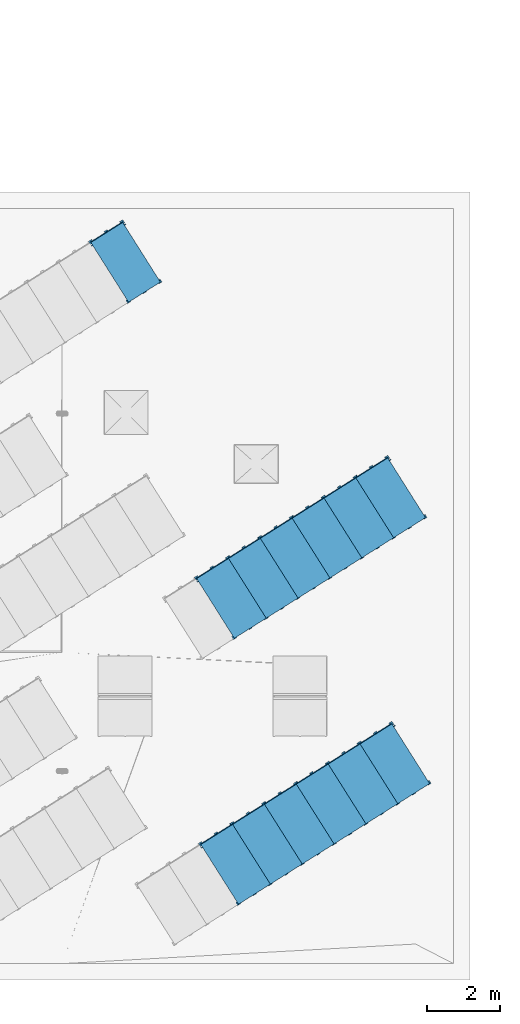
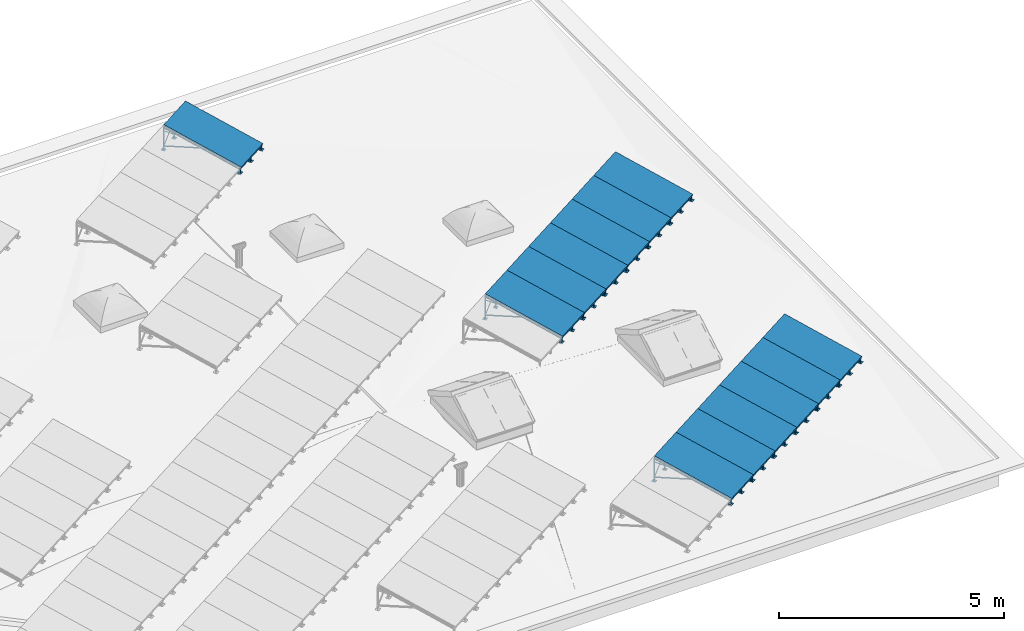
# One storey, part 3 of 9: 13 discrete accessories.
"""IFC2X3 building model written with IfcOpenShell, lengths in millimetres."""

from ifc_helpers import new_model, entity, si_unit, converted_unit, derived_unit, money_unit, direction, frame, origin_with_axes, place, context, subcontext, project, spatial, open_shell, faceted_brep, surface_model, source, transform, mapped, type_object, element, save


model = new_model("IFC2X3")

# Units and contexts
model_context = context("Model", 3, precision=0.01, world=origin_with_axes(), true_north=direction((0.0, 1.0)))
body_context = subcontext(model_context, "Body", "Model", "MODEL_VIEW")
ifc_project = project(units=[si_unit("LENGTHUNIT", "METRE", prefix="MILLI"), si_unit("AREAUNIT", "SQUARE_METRE"), si_unit("VOLUMEUNIT", "CUBIC_METRE"), converted_unit("PLANEANGLEUNIT", "DEGREE", entity("IfcPlaneAngleMeasure", 0.0174532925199), si_unit("PLANEANGLEUNIT", "RADIAN"), dimensions=[0, 0, 0, 0, 0, 0, 0]), si_unit("SOLIDANGLEUNIT", "STERADIAN"), money_unit("EUR"), converted_unit("TIMEUNIT", "Year", entity("IfcTimeMeasure", 31556926.0), si_unit("TIMEUNIT", "SECOND"), dimensions=[0, 0, 1, 0, 0, 0, 0]), si_unit("MASSUNIT", "GRAM", prefix="KILO"), si_unit("THERMODYNAMICTEMPERATUREUNIT", "DEGREE_CELSIUS"), si_unit("LUMINOUSINTENSITYUNIT", "LUMEN"), si_unit("ENERGYUNIT", "JOULE", prefix="MEGA"), derived_unit("THERMALCONDUCTANCEUNIT", [(si_unit("POWERUNIT", "WATT"), 1), (si_unit("LENGTHUNIT", "METRE"), -1), (si_unit("THERMODYNAMICTEMPERATUREUNIT", "KELVIN"), -1)]), derived_unit("SPECIFICHEATCAPACITYUNIT", [(si_unit("ENERGYUNIT", "JOULE"), 1), (si_unit("MASSUNIT", "GRAM", prefix="KILO"), -1), (si_unit("THERMODYNAMICTEMPERATUREUNIT", "KELVIN"), -1)]), derived_unit("MASSDENSITYUNIT", [(si_unit("MASSUNIT", "GRAM", prefix="KILO"), 1), (si_unit("VOLUMEUNIT", "CUBIC_METRE"), -1)])], contexts=[model_context])

# Site, building, storey
site_placement = place(None, origin_with_axes())
site = spatial("IfcSite", under=ifc_project, at=site_placement, Name="KIRDE 14, ELVA", CompositionType="ELEMENT")
building_placement = place(site_placement, origin_with_axes())
building = spatial("IfcBuilding", under=site, at=building_placement, Name="PPA ja Päästeameti ühishoone", CompositionType="ELEMENT")
storey_placement = place(building_placement, frame((0.0, 0.0, 7700.0), z_axis=(0.0, 0.0, 1.0), x_axis=(1.0, 0.0, 0.0)))
storey = spatial("IfcBuildingStorey", under=building, at=storey_placement, Name="Katusekorrus", CompositionType="ELEMENT", Elevation=7700.0)

# Discrete accessories
discrete_accessory_type = type_object("IfcDiscreteAccessoryType", Name="Solar Collector Flat Plate 24")
shared_shape = source(origin_with_axes(), body_context, "Body", "SurfaceModel", [
    surface_model("IfcShellBasedSurfaceModel", [(0.0, 1835.04380685, 600.253058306), (50.0, 1835.04380685, 600.253058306), (50.0, 1825.4978653, 604.20711676), (0.0, 1825.4978653, 604.20711676), (0.0, 1844.58974839, 604.20711676), (50.0, 1844.58974839, 604.20711676), (50.0, 1821.54380685, 613.753058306), (0.0, 1821.54380685, 613.753058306), (0.0, 1848.54380685, 613.753058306), (50.0, 1848.54380685, 613.753058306), (50.0, 1825.4978653, 623.298999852), (0.0, 1825.4978653, 623.298999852), (0.0, 1844.58974839, 623.298999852), (50.0, 1844.58974839, 623.298999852), (50.0, 1835.04380685, 627.253058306), (0.0, 1835.04380685, 627.253058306)], [open_shell([[[0, 1, 2, 3]], [[4, 5, 1, 0]], [[3, 2, 6, 7]], [[8, 9, 5, 4]], [[7, 6, 10, 11]], [[12, 13, 9, 8]], [[11, 10, 14, 15]], [[15, 14, 13, 12]]])]),
    surface_model("IfcShellBasedSurfaceModel", [(-1035.0, 1835.04380685, 627.253058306), (-1085.0, 1835.04380685, 627.253058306), (-1085.0, 1825.4978653, 623.298999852), (-1035.0, 1825.4978653, 623.298999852), (-1035.0, 1844.58974839, 623.298999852), (-1085.0, 1844.58974839, 623.298999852), (-1085.0, 1821.54380685, 613.753058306), (-1035.0, 1821.54380685, 613.753058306), (-1035.0, 1848.54380685, 613.753058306), (-1085.0, 1848.54380685, 613.753058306), (-1085.0, 1825.4978653, 604.20711676), (-1035.0, 1825.4978653, 604.20711676), (-1035.0, 1844.58974839, 604.20711676), (-1085.0, 1844.58974839, 604.20711676), (-1085.0, 1835.04380685, 600.253058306), (-1035.0, 1835.04380685, 600.253058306)], [open_shell([[[0, 1, 2, 3]], [[4, 5, 1, 0]], [[3, 2, 6, 7]], [[8, 9, 5, 4]], [[7, 6, 10, 11]], [[12, 13, 9, 8]], [[11, 10, 14, 15]], [[15, 14, 13, 12]]])]),
    faceted_brep([(0.0, -2.6969384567, 96.4852813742), (-1035.0, -2.6969384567, 96.4852813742), (-1035.0, 28.6956508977, 104.89690034), (0.0, 28.6956508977, 104.89690034), (0.0, -15.1202526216, 142.849721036), (-1035.0, -15.1202526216, 142.849721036), (-1035.0, 16.2723367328, 151.261340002), (0.0, 16.2723367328, 151.261340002)], [[[0, 1, 2, 3]], [[4, 5, 1, 0]], [[1, 5, 6, 2]], [[3, 2, 6, 7]], [[0, 3, 7, 4]], [[7, 6, 5, 4]]]),
    faceted_brep([(0.0, 1906.4554572, 608.041124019), (-1035.0, 1906.4554572, 608.041124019), (-1035.0, 1937.84804656, 616.452742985), (0.0, 1937.84804656, 616.452742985), (0.0, 1894.03214304, 654.405563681), (-1035.0, 1894.03214304, 654.405563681), (-1035.0, 1925.42473239, 662.817182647), (0.0, 1925.42473239, 662.817182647)], [[[0, 1, 2, 3]], [[4, 5, 1, 0]], [[1, 5, 6, 2]], [[3, 2, 6, 7]], [[0, 3, 7, 4]], [[7, 6, 5, 4]]]),
    faceted_brep([(-1002.5, 1925.42473239, 662.817182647), (-32.5, 1925.42473239, 662.817182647), (0.0, 1925.42473239, 662.817182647), (0.0, -15.1202526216, 142.849721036), (-1035.0, -15.1202526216, 142.849721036), (-1035.0, 1925.42473239, 662.817182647), (-1002.5, 1894.03214304, 654.405563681), (-1002.5, 16.2723367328, 151.261340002), (-32.5, 16.2723367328, 151.261340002), (-32.5, 1894.03214304, 654.405563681), (-1035.0, 1918.69543722, 687.931254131), (0.0, 1918.69543722, 687.931254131), (0.0, -21.8495477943, 167.96379252), (-1035.0, -21.8495477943, 167.96379252), (-1002.5, 1906.4554572, 608.041124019), (-1002.5, 28.6956508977, 104.89690034), (-32.5, 28.6956508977, 104.89690034), (-32.5, 1906.4554572, 608.041124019), (-70.0, 45.7652600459, 186.081125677), (-965.0, 45.7652600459, 186.081125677), (-965.0, 1851.08062938, 669.813920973), (-70.0, 1851.08062938, 669.813920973), (-70.0, 58.1885742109, 139.716686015), (-965.0, 58.1885742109, 139.716686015), (-965.0, 1863.50394355, 623.449481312), (-70.0, 1863.50394355, 623.449481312)], [[[0, 1, 2, 3, 4, 5], [6, 7, 8, 9]], [[0, 5, 10, 11, 2, 1]], [[11, 12, 3, 2]], [[13, 4, 3, 12]], [[10, 5, 4, 13]], [[14, 15, 7, 6]], [[15, 16, 8, 7]], [[9, 8, 16, 17]], [[6, 9, 17, 14]], [[13, 12, 11, 10], [18, 19, 20, 21]], [[17, 16, 15, 14]], [[18, 22, 23, 19]], [[19, 23, 24, 20]], [[20, 24, 25, 21]], [[21, 25, 22, 18]], [[24, 23, 22, 25]]]),
    faceted_brep([(-70.0, 47.0593552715, 181.251496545), (-70.0, 45.7652600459, 186.081125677), (-965.0, 45.7652600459, 186.081125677), (-965.0, 47.0593552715, 181.251496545), (-70.0, 1852.37472461, 664.984291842), (-70.0, 1851.08062938, 669.813920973), (-965.0, 1851.08062938, 669.813920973), (-965.0, 1852.37472461, 664.984291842)], [[[0, 1, 2, 3]], [[4, 5, 1, 0]], [[1, 5, 6, 2]], [[3, 2, 6, 7]], [[0, 3, 7, 4]], [[7, 6, 5, 4]]]),
    faceted_brep([(-32.5, 1823.3524639, 620.503058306), (-32.5, 1831.54974974, 626.793056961), (-32.5, 1841.79380685, 625.444401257), (-32.5, 1848.0838055, 617.247115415), (-32.5, 1846.7351498, 607.003058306), (-32.5, 1838.53786396, 600.713059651), (-32.5, 1828.29380685, 602.061715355), (-32.5, 1822.00380819, 610.259001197), (0.0, 1823.3524639, 620.503058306), (0.0, 1831.54974974, 626.793056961), (0.0, 1841.79380685, 625.444401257), (0.0, 1848.0838055, 617.247115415), (0.0, 1846.7351498, 607.003058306), (0.0, 1838.53786396, 600.713059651), (0.0, 1828.29380685, 602.061715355), (0.0, 1822.00380819, 610.259001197)], [[[0, 1, 2, 3, 4, 5, 6, 7]], [[0, 8, 9, 1]], [[1, 9, 10, 2]], [[2, 10, 11, 3]], [[3, 11, 12, 4]], [[4, 12, 13, 5]], [[5, 13, 14, 6]], [[6, 14, 15, 7]], [[7, 15, 8, 0]], [[8, 15, 14, 13, 12, 11, 10, 9]]]),
    faceted_brep([(-1002.5, 1823.3524639, 620.503058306), (-1002.5, 1822.00380819, 610.259001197), (-1002.5, 1828.29380685, 602.061715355), (-1002.5, 1838.53786396, 600.713059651), (-1002.5, 1846.7351498, 607.003058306), (-1002.5, 1848.0838055, 617.247115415), (-1002.5, 1841.79380685, 625.444401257), (-1002.5, 1831.54974974, 626.793056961), (-1035.0, 1823.3524639, 620.503058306), (-1035.0, 1822.00380819, 610.259001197), (-1035.0, 1828.29380685, 602.061715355), (-1035.0, 1838.53786396, 600.713059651), (-1035.0, 1846.7351498, 607.003058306), (-1035.0, 1848.0838055, 617.247115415), (-1035.0, 1841.79380685, 625.444401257), (-1035.0, 1831.54974974, 626.793056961)], [[[0, 1, 2, 3, 4, 5, 6, 7]], [[1, 0, 8, 9]], [[2, 1, 9, 10]], [[3, 2, 10, 11]], [[4, 3, 11, 12]], [[5, 4, 12, 13]], [[6, 5, 13, 14]], [[7, 6, 14, 15]], [[0, 7, 15, 8]], [[8, 15, 14, 13, 12, 11, 10, 9]]]),
    faceted_brep([(-70.0, 58.7062123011, 137.784834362), (-70.0, 54.0474694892, 155.171499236), (-965.0, 54.0474694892, 155.171499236), (-965.0, 58.7062123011, 137.784834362), (-70.0, 1864.02158164, 621.517629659), (-70.0, 1859.36283882, 638.904294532), (-965.0, 1859.36283882, 638.904294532), (-140.0, 121.662277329, 173.288832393), (-895.0, 121.662277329, 173.288832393), (-895.0, 1791.74803098, 620.786961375), (-140.0, 1791.74803098, 620.786961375), (-965.0, 1864.02158164, 621.517629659), (-140.0, 126.321020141, 155.90216752), (-140.0, 1796.4067738, 603.400296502), (-895.0, 1796.4067738, 603.400296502), (-895.0, 126.321020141, 155.90216752)], [[[0, 1, 2, 3]], [[4, 5, 1, 0]], [[1, 5, 6, 2], [7, 8, 9, 10]], [[3, 2, 6, 11]], [[0, 3, 11, 4], [12, 13, 14, 15]], [[11, 6, 5, 4]], [[15, 8, 7, 12]], [[14, 9, 8, 15]], [[13, 10, 9, 14]], [[12, 7, 10, 13]]]),
    surface_model("IfcShellBasedSurfaceModel", [(-140.0, 125.026924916, 160.731796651), (-895.0, 125.026924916, 160.731796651), (-895.0, 1795.11267857, 608.229925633), (-140.0, 1795.11267857, 608.229925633)], [open_shell([[[0, 1, 2, 3]]])]),
    faceted_brep([(0.0, 1944.05970364, 593.270523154), (0.0, 3.51471862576, 73.3030615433), (-24.0, 3.51471862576, 73.3030615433), (-24.0, 1944.05970364, 593.270523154), (0.0, 1937.84804656, 616.452742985), (0.0, -2.6969384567, 96.4852813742), (-24.0, -2.6969384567, 96.4852813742), (-24.0, 1937.84804656, 616.452742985)], [[[0, 1, 2, 3]], [[4, 5, 1, 0]], [[1, 5, 6, 2]], [[3, 2, 6, 7]], [[0, 3, 7, 4]], [[7, 6, 5, 4]]]),
    faceted_brep([(-505.5, 1944.05970364, 593.270523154), (-505.5, 3.51471862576, 73.3030615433), (-529.5, 3.51471862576, 73.3030615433), (-529.5, 1944.05970364, 593.270523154), (-505.5, 1937.84804656, 616.452742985), (-505.5, -2.6969384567, 96.4852813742), (-529.5, -2.6969384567, 96.4852813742), (-529.5, 1937.84804656, 616.452742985)], [[[0, 1, 2, 3]], [[4, 5, 1, 0]], [[1, 5, 6, 2]], [[3, 2, 6, 7]], [[0, 3, 7, 4]], [[7, 6, 5, 4]]]),
    faceted_brep([(-1011.0, 1944.05970364, 593.270523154), (-1011.0, 3.51471862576, 73.3030615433), (-1035.0, 3.51471862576, 73.3030615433), (-1035.0, 1944.05970364, 593.270523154), (-1011.0, 1937.84804656, 616.452742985), (-1011.0, -2.6969384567, 96.4852813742), (-1035.0, -2.6969384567, 96.4852813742), (-1035.0, 1937.84804656, 616.452742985)], [[[0, 1, 2, 3]], [[4, 5, 1, 0]], [[1, 5, 6, 2]], [[3, 2, 6, 7]], [[0, 3, 7, 4]], [[7, 6, 5, 4]]]),
    faceted_brep([(0.0, 24.0, 52.0), (0.0, 24.0, 88.0), (5.0, 24.0, 88.0), (5.0, 24.0, 5.0), (-29.0, 24.0, 5.0), (-29.0, 24.0, 88.0), (-24.0, 24.0, 88.0), (-24.0, 24.0, 52.0), (0.0, 0.0, 52.0), (0.0, 0.0, 88.0), (0.0, 3.51471862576, 96.4852813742), (0.0, 12.0, 100.0), (0.0, 20.4852813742, 96.4852813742), (5.0, 20.4852813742, 96.4852813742), (5.0, 12.0, 100.0), (5.0, 3.51471862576, 96.4852813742), (5.0, 0.0, 88.0), (5.0, 0.0, 5.0), (-29.0, 0.0, 5.0), (-29.0, 12.0, 100.0), (-29.0, 20.4852813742, 96.4852813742), (-29.0, 0.0, 88.0), (-29.0, 3.51471862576, 96.4852813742), (-24.0, 20.4852813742, 96.4852813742), (-24.0, 12.0, 100.0), (-24.0, 3.51471862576, 96.4852813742), (-24.0, 0.0, 88.0), (-24.0, 0.0, 52.0)], [[[0, 1, 2, 3, 4, 5, 6, 7]], [[0, 8, 9, 10, 11, 12, 1]], [[12, 13, 2, 1]], [[13, 14, 15, 16, 17, 3, 2]], [[3, 17, 18, 4]], [[19, 20, 5, 4, 18, 21, 22]], [[6, 5, 20, 23]], [[23, 24, 25, 26, 27, 7, 6]], [[7, 27, 8, 0]], [[8, 27, 26, 21, 18, 17, 16, 9]], [[9, 16, 15, 10]], [[10, 15, 14, 11]], [[11, 14, 13, 12]], [[23, 20, 19, 24]], [[25, 22, 21, 26]], [[24, 19, 22, 25]]]),
    faceted_brep([(38.0, -38.0, 0.0), (38.0, -38.0, 5.0), (-62.0, -38.0, 5.0), (-62.0, -38.0, 0.0), (38.0, 62.0, 0.0), (38.0, 62.0, 5.0), (-62.0, 62.0, 5.0), (-62.0, 62.0, 0.0)], [[[0, 1, 2, 3]], [[4, 5, 1, 0]], [[1, 5, 6, 2]], [[3, 2, 6, 7]], [[0, 3, 7, 4]], [[7, 6, 5, 4]]]),
    faceted_brep([(-505.5, 24.0, 52.0), (-505.5, 24.0, 88.0), (-500.5, 24.0, 88.0), (-500.5, 24.0, 5.0), (-534.5, 24.0, 5.0), (-534.5, 24.0, 88.0), (-529.5, 24.0, 88.0), (-529.5, 24.0, 52.0), (-505.5, 0.0, 52.0), (-505.5, 0.0, 88.0), (-505.5, 3.51471862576, 96.4852813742), (-505.5, 12.0, 100.0), (-505.5, 20.4852813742, 96.4852813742), (-500.5, 20.4852813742, 96.4852813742), (-500.5, 12.0, 100.0), (-500.5, 3.51471862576, 96.4852813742), (-500.5, 0.0, 88.0), (-500.5, 0.0, 5.0), (-534.5, 0.0, 5.0), (-534.5, 12.0, 100.0), (-534.5, 20.4852813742, 96.4852813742), (-534.5, 0.0, 88.0), (-534.5, 3.51471862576, 96.4852813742), (-529.5, 20.4852813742, 96.4852813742), (-529.5, 12.0, 100.0), (-529.5, 3.51471862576, 96.4852813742), (-529.5, 0.0, 88.0), (-529.5, 0.0, 52.0)], [[[0, 1, 2, 3, 4, 5, 6, 7]], [[0, 8, 9, 10, 11, 12, 1]], [[12, 13, 2, 1]], [[13, 14, 15, 16, 17, 3, 2]], [[3, 17, 18, 4]], [[19, 20, 5, 4, 18, 21, 22]], [[6, 5, 20, 23]], [[23, 24, 25, 26, 27, 7, 6]], [[7, 27, 8, 0]], [[8, 27, 26, 21, 18, 17, 16, 9]], [[9, 16, 15, 10]], [[10, 15, 14, 11]], [[11, 14, 13, 12]], [[23, 20, 19, 24]], [[25, 22, 21, 26]], [[24, 19, 22, 25]]]),
    faceted_brep([(-467.5, -38.0, 0.0), (-467.5, -38.0, 5.0), (-567.5, -38.0, 5.0), (-567.5, -38.0, 0.0), (-467.5, 62.0, 0.0), (-467.5, 62.0, 5.0), (-567.5, 62.0, 5.0), (-567.5, 62.0, 0.0)], [[[0, 1, 2, 3]], [[4, 5, 1, 0]], [[1, 5, 6, 2]], [[3, 2, 6, 7]], [[0, 3, 7, 4]], [[7, 6, 5, 4]]]),
    faceted_brep([(-1011.0, 24.0, 52.0), (-1011.0, 24.0, 88.0), (-1006.0, 24.0, 88.0), (-1006.0, 24.0, 5.0), (-1040.0, 24.0, 5.0), (-1040.0, 24.0, 88.0), (-1035.0, 24.0, 88.0), (-1035.0, 24.0, 52.0), (-1011.0, 0.0, 52.0), (-1011.0, 0.0, 88.0), (-1011.0, 3.51471862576, 96.4852813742), (-1011.0, 12.0, 100.0), (-1011.0, 20.4852813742, 96.4852813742), (-1006.0, 20.4852813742, 96.4852813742), (-1006.0, 12.0, 100.0), (-1006.0, 3.51471862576, 96.4852813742), (-1006.0, 0.0, 88.0), (-1006.0, 0.0, 5.0), (-1040.0, 0.0, 5.0), (-1040.0, 12.0, 100.0), (-1040.0, 20.4852813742, 96.4852813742), (-1040.0, 0.0, 88.0), (-1040.0, 3.51471862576, 96.4852813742), (-1035.0, 20.4852813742, 96.4852813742), (-1035.0, 12.0, 100.0), (-1035.0, 3.51471862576, 96.4852813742), (-1035.0, 0.0, 88.0), (-1035.0, 0.0, 52.0)], [[[0, 1, 2, 3, 4, 5, 6, 7]], [[0, 8, 9, 10, 11, 12, 1]], [[12, 13, 2, 1]], [[13, 14, 15, 16, 17, 3, 2]], [[3, 17, 18, 4]], [[19, 20, 5, 4, 18, 21, 22]], [[6, 5, 20, 23]], [[23, 24, 25, 26, 27, 7, 6]], [[7, 27, 8, 0]], [[8, 27, 26, 21, 18, 17, 16, 9]], [[9, 16, 15, 10]], [[10, 15, 14, 11]], [[11, 14, 13, 12]], [[23, 20, 19, 24]], [[25, 22, 21, 26]], [[24, 19, 22, 25]]]),
    faceted_brep([(-973.0, -38.0, 0.0), (-973.0, -38.0, 5.0), (-1073.0, -38.0, 5.0), (-1073.0, -38.0, 0.0), (-973.0, 62.0, 0.0), (-973.0, 62.0, 5.0), (-1073.0, 62.0, 5.0), (-1073.0, 62.0, 0.0)], [[[0, 1, 2, 3]], [[4, 5, 1, 0]], [[1, 5, 6, 2]], [[3, 2, 6, 7]], [[0, 3, 7, 4]], [[7, 6, 5, 4]]]),
    faceted_brep([(0.0, 1941.36276518, 565.755804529), (0.0, 1941.36276518, 601.755804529), (5.0, 1941.36276518, 601.755804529), (5.0, 1941.36276518, 5.0), (-29.0, 1941.36276518, 5.0), (-29.0, 1941.36276518, 601.755804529), (-24.0, 1941.36276518, 601.755804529), (-24.0, 1941.36276518, 565.755804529), (0.0, 1917.36276518, 565.755804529), (0.0, 1917.36276518, 601.755804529), (0.0, 1920.87748381, 610.241085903), (0.0, 1929.36276518, 613.755804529), (0.0, 1937.84804656, 610.241085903), (5.0, 1937.84804656, 610.241085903), (5.0, 1929.36276518, 613.755804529), (5.0, 1920.87748381, 610.241085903), (5.0, 1917.36276518, 601.755804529), (5.0, 1917.36276518, 5.0), (-29.0, 1917.36276518, 5.0), (-29.0, 1929.36276518, 613.755804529), (-29.0, 1937.84804656, 610.241085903), (-29.0, 1917.36276518, 601.755804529), (-29.0, 1920.87748381, 610.241085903), (-24.0, 1937.84804656, 610.241085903), (-24.0, 1929.36276518, 613.755804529), (-24.0, 1920.87748381, 610.241085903), (-24.0, 1917.36276518, 601.755804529), (-24.0, 1917.36276518, 565.755804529)], [[[0, 1, 2, 3, 4, 5, 6, 7]], [[0, 8, 9, 10, 11, 12, 1]], [[12, 13, 2, 1]], [[13, 14, 15, 16, 17, 3, 2]], [[3, 17, 18, 4]], [[19, 20, 5, 4, 18, 21, 22]], [[6, 5, 20, 23]], [[23, 24, 25, 26, 27, 7, 6]], [[7, 27, 8, 0]], [[8, 27, 26, 21, 18, 17, 16, 9]], [[9, 16, 15, 10]], [[10, 15, 14, 11]], [[11, 14, 13, 12]], [[23, 20, 19, 24]], [[25, 22, 21, 26]], [[24, 19, 22, 25]]]),
    faceted_brep([(38.0, 1879.36276518, 0.0), (38.0, 1879.36276518, 5.0), (-62.0, 1879.36276518, 5.0), (-62.0, 1879.36276518, 0.0), (38.0, 1979.36276518, 0.0), (38.0, 1979.36276518, 5.0), (-62.0, 1979.36276518, 5.0), (-62.0, 1979.36276518, 0.0)], [[[0, 1, 2, 3]], [[4, 5, 1, 0]], [[1, 5, 6, 2]], [[3, 2, 6, 7]], [[0, 3, 7, 4]], [[7, 6, 5, 4]]]),
    faceted_brep([(-505.5, 1941.36276518, 565.755804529), (-505.5, 1941.36276518, 601.755804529), (-500.5, 1941.36276518, 601.755804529), (-500.5, 1941.36276518, 5.0), (-534.5, 1941.36276518, 5.0), (-534.5, 1941.36276518, 601.755804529), (-529.5, 1941.36276518, 601.755804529), (-529.5, 1941.36276518, 565.755804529), (-505.5, 1917.36276518, 565.755804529), (-505.5, 1917.36276518, 601.755804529), (-505.5, 1920.87748381, 610.241085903), (-505.5, 1929.36276518, 613.755804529), (-505.5, 1937.84804656, 610.241085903), (-500.5, 1937.84804656, 610.241085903), (-500.5, 1929.36276518, 613.755804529), (-500.5, 1920.87748381, 610.241085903), (-500.5, 1917.36276518, 601.755804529), (-500.5, 1917.36276518, 5.0), (-534.5, 1917.36276518, 5.0), (-534.5, 1929.36276518, 613.755804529), (-534.5, 1937.84804656, 610.241085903), (-534.5, 1917.36276518, 601.755804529), (-534.5, 1920.87748381, 610.241085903), (-529.5, 1937.84804656, 610.241085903), (-529.5, 1929.36276518, 613.755804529), (-529.5, 1920.87748381, 610.241085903), (-529.5, 1917.36276518, 601.755804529), (-529.5, 1917.36276518, 565.755804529)], [[[0, 1, 2, 3, 4, 5, 6, 7]], [[0, 8, 9, 10, 11, 12, 1]], [[12, 13, 2, 1]], [[13, 14, 15, 16, 17, 3, 2]], [[3, 17, 18, 4]], [[19, 20, 5, 4, 18, 21, 22]], [[6, 5, 20, 23]], [[23, 24, 25, 26, 27, 7, 6]], [[7, 27, 8, 0]], [[8, 27, 26, 21, 18, 17, 16, 9]], [[9, 16, 15, 10]], [[10, 15, 14, 11]], [[11, 14, 13, 12]], [[23, 20, 19, 24]], [[25, 22, 21, 26]], [[24, 19, 22, 25]]]),
    faceted_brep([(-467.5, 1879.36276518, 0.0), (-467.5, 1879.36276518, 5.0), (-567.5, 1879.36276518, 5.0), (-567.5, 1879.36276518, 0.0), (-467.5, 1979.36276518, 0.0), (-467.5, 1979.36276518, 5.0), (-567.5, 1979.36276518, 5.0), (-567.5, 1979.36276518, 0.0)], [[[0, 1, 2, 3]], [[4, 5, 1, 0]], [[1, 5, 6, 2]], [[3, 2, 6, 7]], [[0, 3, 7, 4]], [[7, 6, 5, 4]]]),
    faceted_brep([(-1011.0, 1941.36276518, 565.755804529), (-1011.0, 1941.36276518, 601.755804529), (-1006.0, 1941.36276518, 601.755804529), (-1006.0, 1941.36276518, 5.0), (-1040.0, 1941.36276518, 5.0), (-1040.0, 1941.36276518, 601.755804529), (-1035.0, 1941.36276518, 601.755804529), (-1035.0, 1941.36276518, 565.755804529), (-1011.0, 1917.36276518, 565.755804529), (-1011.0, 1917.36276518, 601.755804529), (-1011.0, 1920.87748381, 610.241085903), (-1011.0, 1929.36276518, 613.755804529), (-1011.0, 1937.84804656, 610.241085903), (-1006.0, 1937.84804656, 610.241085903), (-1006.0, 1929.36276518, 613.755804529), (-1006.0, 1920.87748381, 610.241085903), (-1006.0, 1917.36276518, 601.755804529), (-1006.0, 1917.36276518, 5.0), (-1040.0, 1917.36276518, 5.0), (-1040.0, 1929.36276518, 613.755804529), (-1040.0, 1937.84804656, 610.241085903), (-1040.0, 1917.36276518, 601.755804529), (-1040.0, 1920.87748381, 610.241085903), (-1035.0, 1937.84804656, 610.241085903), (-1035.0, 1929.36276518, 613.755804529), (-1035.0, 1920.87748381, 610.241085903), (-1035.0, 1917.36276518, 601.755804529), (-1035.0, 1917.36276518, 565.755804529)], [[[0, 1, 2, 3, 4, 5, 6, 7]], [[0, 8, 9, 10, 11, 12, 1]], [[12, 13, 2, 1]], [[13, 14, 15, 16, 17, 3, 2]], [[3, 17, 18, 4]], [[19, 20, 5, 4, 18, 21, 22]], [[6, 5, 20, 23]], [[23, 24, 25, 26, 27, 7, 6]], [[7, 27, 8, 0]], [[8, 27, 26, 21, 18, 17, 16, 9]], [[9, 16, 15, 10]], [[10, 15, 14, 11]], [[11, 14, 13, 12]], [[23, 20, 19, 24]], [[25, 22, 21, 26]], [[24, 19, 22, 25]]]),
    faceted_brep([(-973.0, 1879.36276518, 0.0), (-973.0, 1879.36276518, 5.0), (-1073.0, 1879.36276518, 5.0), (-1073.0, 1879.36276518, 0.0), (-973.0, 1979.36276518, 0.0), (-973.0, 1979.36276518, 5.0), (-1073.0, 1979.36276518, 5.0), (-1073.0, 1979.36276518, 0.0)], [[[0, 1, 2, 3]], [[4, 5, 1, 0]], [[1, 5, 6, 2]], [[3, 2, 6, 7]], [[0, 3, 7, 4]], [[7, 6, 5, 4]]]),
    faceted_brep([(-24.0, 1917.36276518, 90.7920761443), (0.0, 1917.36276518, 90.7920761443), (0.0, 993.073687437, 338.454588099), (-24.0, 993.073687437, 338.454588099), (-24.0, 1917.36276518, 115.638704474), (0.0, 1917.36276518, 115.638704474), (0.0, 1039.4381271, 350.877902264), (-24.0, 1039.4381271, 350.877902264)], [[[0, 1, 2, 3]], [[1, 0, 4, 5]], [[1, 5, 6, 2]], [[2, 6, 7, 3]], [[4, 0, 3, 7]], [[5, 4, 7, 6]]]),
    faceted_brep([(-529.5, 1917.36276518, 90.7920761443), (-505.5, 1917.36276518, 90.7920761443), (-505.5, 993.073687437, 338.454588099), (-529.5, 993.073687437, 338.454588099), (-529.5, 1917.36276518, 115.638704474), (-505.5, 1917.36276518, 115.638704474), (-505.5, 1039.4381271, 350.877902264), (-529.5, 1039.4381271, 350.877902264)], [[[0, 1, 2, 3]], [[1, 0, 4, 5]], [[1, 5, 6, 2]], [[2, 6, 7, 3]], [[4, 0, 3, 7]], [[5, 4, 7, 6]]]),
    faceted_brep([(-1035.0, 1917.36276518, 90.7920761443), (-1011.0, 1917.36276518, 90.7920761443), (-1011.0, 993.073687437, 338.454588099), (-1035.0, 993.073687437, 338.454588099), (-1035.0, 1917.36276518, 115.638704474), (-1011.0, 1917.36276518, 115.638704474), (-1011.0, 1039.4381271, 350.877902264), (-1035.0, 1039.4381271, 350.877902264)], [[[0, 1, 2, 3]], [[1, 0, 4, 5]], [[1, 5, 6, 2]], [[2, 6, 7, 3]], [[4, 0, 3, 7]], [[5, 4, 7, 6]]]),
    faceted_brep([(-29.0, 1929.36276518, 98.4074259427), (-29.0, 1929.36276518, 129.421846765), (-500.5, 1929.36276518, 515.348378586), (-500.5, 1929.36276518, 484.333957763), (-29.0, 1941.36276518, 98.4074259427), (-29.0, 1941.36276518, 129.421846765), (-500.5, 1941.36276518, 515.348378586), (-500.5, 1941.36276518, 484.333957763)], [[[0, 1, 2, 3]], [[1, 0, 4, 5]], [[1, 5, 6, 2]], [[2, 6, 7, 3]], [[4, 0, 3, 7]], [[5, 4, 7, 6]]]),
    faceted_brep([(-500.5, 1917.36276518, 129.421846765), (-500.5, 1917.36276518, 98.4074259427), (-29.0, 1917.36276518, 484.333957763), (-29.0, 1917.36276518, 515.348378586), (-500.5, 1929.36276518, 129.421846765), (-500.5, 1929.36276518, 98.4074259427), (-29.0, 1929.36276518, 484.333957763), (-29.0, 1929.36276518, 515.348378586)], [[[0, 1, 2, 3]], [[0, 4, 5, 1]], [[1, 5, 6, 2]], [[3, 2, 6, 7]], [[4, 0, 3, 7]], [[5, 4, 7, 6]]]),
    faceted_brep([(-534.5, 1929.36276518, 98.4074259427), (-534.5, 1929.36276518, 129.421846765), (-1006.0, 1929.36276518, 515.348378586), (-1006.0, 1929.36276518, 484.333957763), (-534.5, 1941.36276518, 98.4074259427), (-534.5, 1941.36276518, 129.421846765), (-1006.0, 1941.36276518, 515.348378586), (-1006.0, 1941.36276518, 484.333957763)], [[[0, 1, 2, 3]], [[1, 0, 4, 5]], [[1, 5, 6, 2]], [[2, 6, 7, 3]], [[4, 0, 3, 7]], [[5, 4, 7, 6]]]),
    faceted_brep([(-1006.0, 1917.36276518, 129.421846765), (-1006.0, 1917.36276518, 98.4074259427), (-534.5, 1917.36276518, 484.333957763), (-534.5, 1917.36276518, 515.348378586), (-1006.0, 1929.36276518, 129.421846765), (-1006.0, 1929.36276518, 98.4074259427), (-534.5, 1929.36276518, 484.333957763), (-534.5, 1929.36276518, 515.348378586)], [[[0, 1, 2, 3]], [[0, 4, 5, 1]], [[1, 5, 6, 2]], [[3, 2, 6, 7]], [[4, 0, 3, 7]], [[5, 4, 7, 6]]]),
])
for number, where, z_axis, x_axis in (
    (1, (35877.2775409, 2752.84172285, 0.0), (0.0, 0.0, 1.0), (0.845542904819, 0.533907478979, 0.0)),
    (2, (39377.8251681, 4963.21868493, 0.0), (0.0, 0.0, 1.0), (0.845542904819, 0.533907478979, 0.0)),
    (3, (31981.240813, 18741.5773372, 0.0), (0.0, 0.0, 1.0), (0.845542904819, 0.533907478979, 0.0)),
    (4, (39263.6859288, 12270.68258, 0.0), (0.0, 0.0, 1.0), (0.845542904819, 0.533907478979, 0.0)),
    (5, (37627.5513553, 3858.03020436, 0.0), (0.0, 0.0, 1.0), (0.845542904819, 0.533907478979, 0.0)),
    (6, (35002.140634, 2200.24748211, 0.0), (0.0, 0.0, 1.0), (0.845542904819, 0.533907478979, 0.0)),
    (7, (38502.6882614, 4410.62444417, 0.0), (0.0, 0.0, 1.0), (0.845542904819, 0.533907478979, 0.0)),
    (8, (38388.5490216, 11718.0883384, 0.0), (0.0, 0.0, 1.0), (0.845542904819, 0.533907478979, 0.0)),
    (9, (37513.4121149, 11165.4940976, 0.0), (0.0, 0.0, 1.0), (0.845542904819, 0.533907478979, 0.0)),
    (10, (36638.2752086, 10612.8998568, 0.0), (0.0, 0.0, 1.0), (0.845542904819, 0.533907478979, 0.0)),
    (11, (35763.1383018, 10060.3056161, 0.0), (0.0, 0.0, 1.0), (0.845542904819, 0.533907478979, 0.0)),
    (12, (36752.4144481, 3305.43596361, 0.0), (0.0, 0.0, 1.0), (0.845542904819, 0.533907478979, 0.0)),
    (13, (34888.0013958, 9507.71137628, 0.0), (0.0, 0.0, 1.0), (0.845542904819, 0.533907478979, 0.0)),
):
    element("IfcDiscreteAccessory", number, at=place(storey_placement, frame(where, z_axis=z_axis, x_axis=x_axis)), inside=storey, type_object=discrete_accessory_type, Name="Panasonic WH-UX-09-DE8-1", context=body_context, shape_type="MappedRepresentation", body=[
        mapped(shared_shape, transform((0.0, 0.0, 0.0))),
    ])

save(model, "model.ifc")
